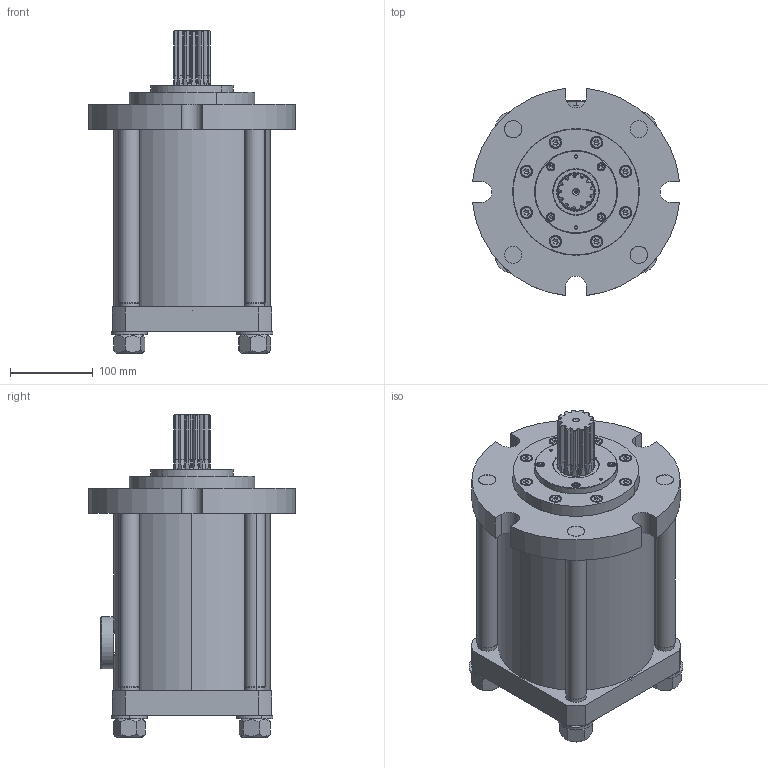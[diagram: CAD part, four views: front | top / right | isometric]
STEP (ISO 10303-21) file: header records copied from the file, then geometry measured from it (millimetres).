
FILE_DESCRIPTION (( 'STEP AP214' ), '1' );
FILE_NAME ('PB80-286DMS.STEP', '2026-02-02T14:57:36', ( '' ), ( '' ), 'SwSTEP 2.0', 'SolidWorks 2025', '' );
FILE_SCHEMA (( 'AUTOMOTIVE_DESIGN' ));
Length unit declared in the file: millimetre
Products named in the file (1): PB80-286DMS
Bounding box: 250.76 x 250.76 x 390 mm (x, y, z)
Surface area: 500888.3 mm2 (no closed solid volume)
Topology: 0 solids, 49 shells, 614 faces, 1810 edges, 1225 vertices
Faces by surface type: cylinder 226, plane 189, cone 113, torus 70, bspline 16
Entity records: 23356 total; most frequent: CARTESIAN_POINT 7322, DIRECTION 3367, ORIENTED_EDGE 3111, EDGE_CURVE 1782, AXIS2_PLACEMENT_3D 1310, VERTEX_POINT 1225, VECTOR 747, LINE 747
